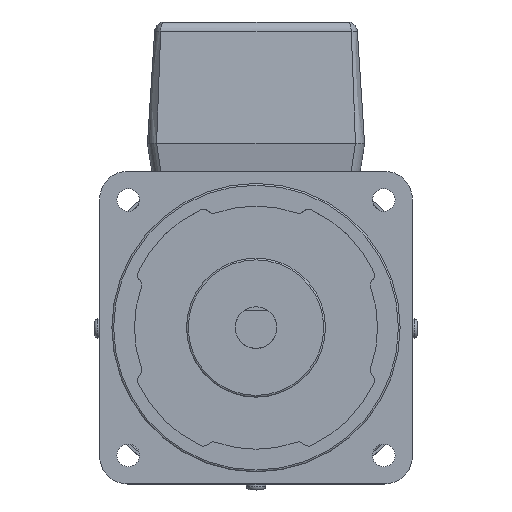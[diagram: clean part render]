
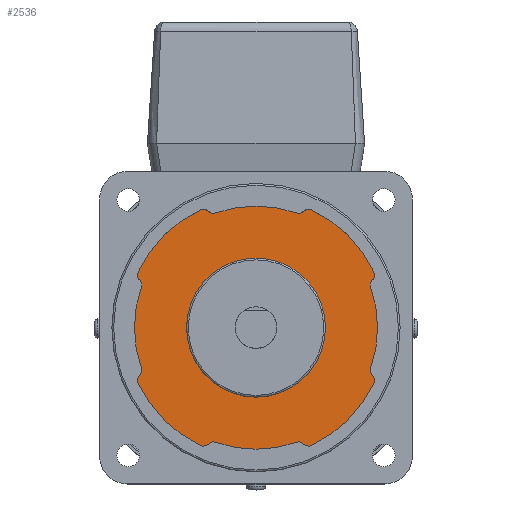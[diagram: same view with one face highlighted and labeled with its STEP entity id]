
A CAD part, top view. The second image highlights one B-rep face of the part: STEP entity #2536.
In plain terms, the highlighted planar face has unit normal (0, 0, 1).
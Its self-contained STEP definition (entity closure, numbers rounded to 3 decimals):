
#1299=CARTESIAN_POINT('',(20.0,0.,151.0));
#1300=VERTEX_POINT('',#1299);
#1301=CARTESIAN_POINT('',(0.,0.,151.0));
#1302=DIRECTION('',(0.0,0.0,-1.0));
#1303=DIRECTION('',(-1.0,0.0,0.0));
#1304=AXIS2_PLACEMENT_3D('',#1301,#1302,#1303);
#1305=CIRCLE('',#1304,20.0);
#1306=EDGE_CURVE('',#1300,#1300,#1305,.T.);
#1329=CARTESIAN_POINT('',(-13.722,-33.501,151.0));
#1330=VERTEX_POINT('',#1329);
#1346=CARTESIAN_POINT('',(-11.626,-33.013,151.0));
#1347=VERTEX_POINT('',#1346);
#1354=CARTESIAN_POINT('',(-12.291,-34.899,151.0));
#1355=DIRECTION('',(0.0,0.0,-1.0));
#1356=DIRECTION('',(-0.408,0.913,0.0));
#1357=AXIS2_PLACEMENT_3D('',#1354,#1355,#1356);
#1358=CIRCLE('',#1357,2.0);
#1359=EDGE_CURVE('',#1347,#1330,#1358,.F.);
#1379=CARTESIAN_POINT('',(11.626,-33.013,151.0));
#1380=VERTEX_POINT('',#1379);
#1387=CARTESIAN_POINT('',(0.,0.,151.));
#1388=DIRECTION('',(0.,0.,1.0));
#1389=DIRECTION('',(-0.383,-0.924,0.));
#1390=AXIS2_PLACEMENT_3D('',#1387,#1388,#1389);
#1391=CIRCLE('',#1390,35.0);
#1392=EDGE_CURVE('',#1347,#1380,#1391,.T.);
#1402=CARTESIAN_POINT('',(13.722,-33.501,151.0));
#1403=VERTEX_POINT('',#1402);
#1412=CARTESIAN_POINT('',(12.291,-34.899,151.0));
#1413=DIRECTION('',(0.0,0.0,-1.0));
#1414=DIRECTION('',(0.408,0.913,0.0));
#1415=AXIS2_PLACEMENT_3D('',#1412,#1413,#1414);
#1416=CIRCLE('',#1415,2.0);
#1417=EDGE_CURVE('',#1403,#1380,#1416,.F.);
#1444=CARTESIAN_POINT('',(16.006,-33.913,151.0));
#1445=VERTEX_POINT('',#1444);
#1452=CARTESIAN_POINT('',(15.152,-32.104,151.0));
#1453=DIRECTION('',(0.0,0.0,1.0));
#1454=DIRECTION('',(0.715,0.699,0.0));
#1455=AXIS2_PLACEMENT_3D('',#1452,#1453,#1454);
#1456=CIRCLE('',#1455,2.);
#1457=EDGE_CURVE('',#1403,#1445,#1456,.T.);
#1468=CARTESIAN_POINT('',(33.913,-16.006,151.0));
#1469=VERTEX_POINT('',#1468);
#1478=CARTESIAN_POINT('',(0.,0.,151.));
#1479=DIRECTION('',(0.,0.,1.0));
#1480=DIRECTION('',(0.383,-0.924,0.));
#1481=AXIS2_PLACEMENT_3D('',#1478,#1479,#1480);
#1482=CIRCLE('',#1481,37.5);
#1483=EDGE_CURVE('',#1445,#1469,#1482,.T.);
#1510=CARTESIAN_POINT('',(33.501,-13.722,151.0));
#1511=VERTEX_POINT('',#1510);
#1518=CARTESIAN_POINT('',(32.104,-15.152,151.0));
#1519=DIRECTION('',(0.0,0.0,1.0));
#1520=DIRECTION('',(-0.904,0.427,0.0));
#1521=AXIS2_PLACEMENT_3D('',#1518,#1519,#1520);
#1522=CIRCLE('',#1521,2.);
#1523=EDGE_CURVE('',#1469,#1511,#1522,.T.);
#1544=CARTESIAN_POINT('',(33.013,-11.626,151.0));
#1545=VERTEX_POINT('',#1544);
#1552=CARTESIAN_POINT('',(34.899,-12.291,151.0));
#1553=DIRECTION('',(0.0,0.0,-1.0));
#1554=DIRECTION('',(-0.913,-0.408,0.0));
#1555=AXIS2_PLACEMENT_3D('',#1552,#1553,#1554);
#1556=CIRCLE('',#1555,2.0);
#1557=EDGE_CURVE('',#1545,#1511,#1556,.F.);
#1567=CARTESIAN_POINT('',(33.013,11.626,151.0));
#1568=VERTEX_POINT('',#1567);
#1577=CARTESIAN_POINT('',(0.,0.,151.));
#1578=DIRECTION('',(0.,0.,1.0));
#1579=DIRECTION('',(0.924,-0.383,0.));
#1580=AXIS2_PLACEMENT_3D('',#1577,#1578,#1579);
#1581=CIRCLE('',#1580,35.);
#1582=EDGE_CURVE('',#1545,#1568,#1581,.T.);
#1600=CARTESIAN_POINT('',(33.501,13.722,151.0));
#1601=VERTEX_POINT('',#1600);
#1610=CARTESIAN_POINT('',(34.899,12.291,151.0));
#1611=DIRECTION('',(0.0,0.0,-1.0));
#1612=DIRECTION('',(-0.913,0.408,0.0));
#1613=AXIS2_PLACEMENT_3D('',#1610,#1611,#1612);
#1614=CIRCLE('',#1613,2.0);
#1615=EDGE_CURVE('',#1601,#1568,#1614,.F.);
#1642=CARTESIAN_POINT('',(33.913,16.006,151.0));
#1643=VERTEX_POINT('',#1642);
#1650=CARTESIAN_POINT('',(32.104,15.152,151.0));
#1651=DIRECTION('',(0.0,0.0,1.0));
#1652=DIRECTION('',(-0.699,0.715,0.0));
#1653=AXIS2_PLACEMENT_3D('',#1650,#1651,#1652);
#1654=CIRCLE('',#1653,2.);
#1655=EDGE_CURVE('',#1601,#1643,#1654,.T.);
#1666=CARTESIAN_POINT('',(16.006,33.913,151.0));
#1667=VERTEX_POINT('',#1666);
#1676=CARTESIAN_POINT('',(0.,0.,151.));
#1677=DIRECTION('',(0.,0.,1.0));
#1678=DIRECTION('',(0.924,0.383,0.));
#1679=AXIS2_PLACEMENT_3D('',#1676,#1677,#1678);
#1680=CIRCLE('',#1679,37.5);
#1681=EDGE_CURVE('',#1643,#1667,#1680,.T.);
#1708=CARTESIAN_POINT('',(13.722,33.501,151.0));
#1709=VERTEX_POINT('',#1708);
#1716=CARTESIAN_POINT('',(15.152,32.104,151.0));
#1717=DIRECTION('',(0.0,0.0,1.0));
#1718=DIRECTION('',(-0.427,-0.904,0.0));
#1719=AXIS2_PLACEMENT_3D('',#1716,#1717,#1718);
#1720=CIRCLE('',#1719,2.);
#1721=EDGE_CURVE('',#1667,#1709,#1720,.T.);
#1742=CARTESIAN_POINT('',(11.626,33.013,151.0));
#1743=VERTEX_POINT('',#1742);
#1750=CARTESIAN_POINT('',(12.291,34.899,151.0));
#1751=DIRECTION('',(0.0,0.0,-1.0));
#1752=DIRECTION('',(0.408,-0.913,0.0));
#1753=AXIS2_PLACEMENT_3D('',#1750,#1751,#1752);
#1754=CIRCLE('',#1753,2.0);
#1755=EDGE_CURVE('',#1743,#1709,#1754,.F.);
#1765=CARTESIAN_POINT('',(-11.626,33.013,151.0));
#1766=VERTEX_POINT('',#1765);
#1775=CARTESIAN_POINT('',(0.,0.,151.));
#1776=DIRECTION('',(0.,0.,1.0));
#1777=DIRECTION('',(0.383,0.924,0.));
#1778=AXIS2_PLACEMENT_3D('',#1775,#1776,#1777);
#1779=CIRCLE('',#1778,35.0);
#1780=EDGE_CURVE('',#1743,#1766,#1779,.T.);
#1798=CARTESIAN_POINT('',(-13.722,33.501,151.0));
#1799=VERTEX_POINT('',#1798);
#1808=CARTESIAN_POINT('',(-12.291,34.899,151.0));
#1809=DIRECTION('',(0.0,0.0,-1.0));
#1810=DIRECTION('',(-0.408,-0.913,0.0));
#1811=AXIS2_PLACEMENT_3D('',#1808,#1809,#1810);
#1812=CIRCLE('',#1811,2.0);
#1813=EDGE_CURVE('',#1799,#1766,#1812,.F.);
#1840=CARTESIAN_POINT('',(-16.006,33.913,151.0));
#1841=VERTEX_POINT('',#1840);
#1848=CARTESIAN_POINT('',(-15.152,32.104,151.0));
#1849=DIRECTION('',(0.0,0.0,1.0));
#1850=DIRECTION('',(-0.715,-0.699,0.0));
#1851=AXIS2_PLACEMENT_3D('',#1848,#1849,#1850);
#1852=CIRCLE('',#1851,2.);
#1853=EDGE_CURVE('',#1799,#1841,#1852,.T.);
#1874=CARTESIAN_POINT('',(-33.913,16.006,151.0));
#1875=VERTEX_POINT('',#1874);
#1882=CARTESIAN_POINT('',(0.,0.,151.));
#1883=DIRECTION('',(0.,0.,1.0));
#1884=DIRECTION('',(-0.383,0.924,0.));
#1885=AXIS2_PLACEMENT_3D('',#1882,#1883,#1884);
#1886=CIRCLE('',#1885,37.5);
#1887=EDGE_CURVE('',#1841,#1875,#1886,.T.);
#1906=CARTESIAN_POINT('',(-33.501,13.722,151.0));
#1907=VERTEX_POINT('',#1906);
#1914=CARTESIAN_POINT('',(-32.104,15.152,151.0));
#1915=DIRECTION('',(0.0,0.0,1.0));
#1916=DIRECTION('',(0.904,-0.427,0.0));
#1917=AXIS2_PLACEMENT_3D('',#1914,#1915,#1916);
#1918=CIRCLE('',#1917,2.);
#1919=EDGE_CURVE('',#1875,#1907,#1918,.T.);
#1940=CARTESIAN_POINT('',(-33.013,11.626,151.0));
#1941=VERTEX_POINT('',#1940);
#1948=CARTESIAN_POINT('',(-34.899,12.291,151.0));
#1949=DIRECTION('',(0.0,0.0,-1.0));
#1950=DIRECTION('',(0.913,0.408,0.0));
#1951=AXIS2_PLACEMENT_3D('',#1948,#1949,#1950);
#1952=CIRCLE('',#1951,2.0);
#1953=EDGE_CURVE('',#1941,#1907,#1952,.F.);
#1963=CARTESIAN_POINT('',(-33.013,-11.626,151.0));
#1964=VERTEX_POINT('',#1963);
#1973=CARTESIAN_POINT('',(0.,0.,151.));
#1974=DIRECTION('',(0.,0.,1.0));
#1975=DIRECTION('',(-0.924,0.383,0.));
#1976=AXIS2_PLACEMENT_3D('',#1973,#1974,#1975);
#1977=CIRCLE('',#1976,35.0);
#1978=EDGE_CURVE('',#1941,#1964,#1977,.T.);
#1996=CARTESIAN_POINT('',(-33.501,-13.722,151.0));
#1997=VERTEX_POINT('',#1996);
#2006=CARTESIAN_POINT('',(-34.899,-12.291,151.0));
#2007=DIRECTION('',(0.0,0.0,-1.0));
#2008=DIRECTION('',(0.913,-0.408,0.0));
#2009=AXIS2_PLACEMENT_3D('',#2006,#2007,#2008);
#2010=CIRCLE('',#2009,2.0);
#2011=EDGE_CURVE('',#1997,#1964,#2010,.F.);
#2038=CARTESIAN_POINT('',(-33.913,-16.006,151.0));
#2039=VERTEX_POINT('',#2038);
#2046=CARTESIAN_POINT('',(-32.104,-15.152,151.0));
#2047=DIRECTION('',(0.0,0.0,1.0));
#2048=DIRECTION('',(0.699,-0.715,0.0));
#2049=AXIS2_PLACEMENT_3D('',#2046,#2047,#2048);
#2050=CIRCLE('',#2049,2.);
#2051=EDGE_CURVE('',#1997,#2039,#2050,.T.);
#2062=CARTESIAN_POINT('',(-16.006,-33.913,151.0));
#2063=VERTEX_POINT('',#2062);
#2072=CARTESIAN_POINT('',(0.,0.,151.));
#2073=DIRECTION('',(0.,0.,1.0));
#2074=DIRECTION('',(-0.924,-0.383,0.));
#2075=AXIS2_PLACEMENT_3D('',#2072,#2073,#2074);
#2076=CIRCLE('',#2075,37.5);
#2077=EDGE_CURVE('',#2039,#2063,#2076,.T.);
#2103=CARTESIAN_POINT('',(-15.152,-32.104,151.0));
#2104=DIRECTION('',(0.0,0.0,1.0));
#2105=DIRECTION('',(0.427,0.904,0.0));
#2106=AXIS2_PLACEMENT_3D('',#2103,#2104,#2105);
#2107=CIRCLE('',#2106,2.);
#2108=EDGE_CURVE('',#2063,#1330,#2107,.T.);
#2502=CARTESIAN_POINT('',(0.,0.,151.0));
#2503=DIRECTION('',(0.0,0.0,1.0));
#2504=DIRECTION('',(1.0,0.0,0.0));
#2505=AXIS2_PLACEMENT_3D('',#2502,#2503,#2504);
#2506=PLANE('',#2505);
#2507=ORIENTED_EDGE('',*,*,#2108,.T.);
#2508=ORIENTED_EDGE('',*,*,#1359,.F.);
#2509=ORIENTED_EDGE('',*,*,#1392,.T.);
#2510=ORIENTED_EDGE('',*,*,#1417,.F.);
#2511=ORIENTED_EDGE('',*,*,#1457,.T.);
#2512=ORIENTED_EDGE('',*,*,#1483,.T.);
#2513=ORIENTED_EDGE('',*,*,#1523,.T.);
#2514=ORIENTED_EDGE('',*,*,#1557,.F.);
#2515=ORIENTED_EDGE('',*,*,#1582,.T.);
#2516=ORIENTED_EDGE('',*,*,#1615,.F.);
#2517=ORIENTED_EDGE('',*,*,#1655,.T.);
#2518=ORIENTED_EDGE('',*,*,#1681,.T.);
#2519=ORIENTED_EDGE('',*,*,#1721,.T.);
#2520=ORIENTED_EDGE('',*,*,#1755,.F.);
#2521=ORIENTED_EDGE('',*,*,#1780,.T.);
#2522=ORIENTED_EDGE('',*,*,#1813,.F.);
#2523=ORIENTED_EDGE('',*,*,#1853,.T.);
#2524=ORIENTED_EDGE('',*,*,#1887,.T.);
#2525=ORIENTED_EDGE('',*,*,#1919,.T.);
#2526=ORIENTED_EDGE('',*,*,#1953,.F.);
#2527=ORIENTED_EDGE('',*,*,#1978,.T.);
#2528=ORIENTED_EDGE('',*,*,#2011,.F.);
#2529=ORIENTED_EDGE('',*,*,#2051,.T.);
#2530=ORIENTED_EDGE('',*,*,#2077,.T.);
#2531=EDGE_LOOP('',(#2507,#2508,#2509,#2510,#2511,#2512,#2513,#2514,#2515,#2516,#2517,#2518,#2519,#2520,#2521,#2522,#2523,#2524,#2525,#2526,#2527,#2528,#2529,#2530));
#2532=FACE_OUTER_BOUND('',#2531,.T.);
#2533=ORIENTED_EDGE('',*,*,#1306,.T.);
#2534=EDGE_LOOP('',(#2533));
#2535=FACE_BOUND('',#2534,.T.);
#2536=ADVANCED_FACE('',(#2532,#2535),#2506,.T.);
